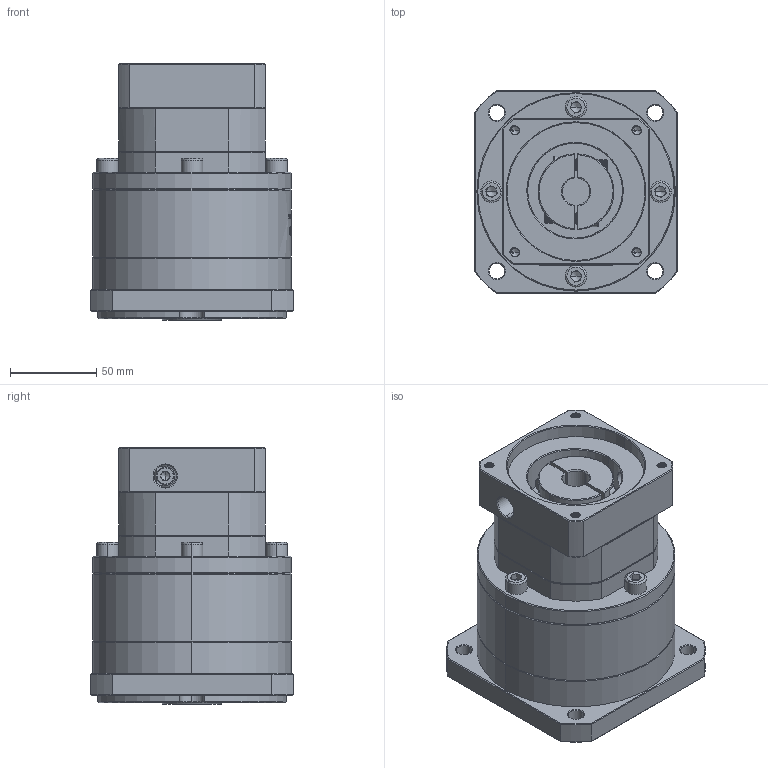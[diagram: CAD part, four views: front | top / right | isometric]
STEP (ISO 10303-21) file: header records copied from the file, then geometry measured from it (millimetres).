
FILE_DESCRIPTION (( 'STEP AP214' ), '1' );
FILE_NAME ('ZF120A-K25-L2-16-80-100-M6.step', '2023-03-07T15:03:38', ( '' ), ( 'Microsoft' ), 'SwSTEP 2.0', 'SolidWorks 2016', '' );
FILE_SCHEMA (( 'AUTOMOTIVE_DESIGN' ));
Length unit declared in the file: millimetre
Products named in the file (1): ZF120A-K25-L2-16-80-100-M6
Bounding box: 118 x 118 x 149 mm (x, y, z)
Volume: 1223533 mm3; surface area: 124837.9 mm2
Topology: 5 solids, 6 shells, 1880 faces, 4921 edges, 3133 vertices
Faces by surface type: plane 880, cylinder 369, bspline 312, cone 304, torus 15
Entity records: 99599 total; most frequent: CARTESIAN_POINT 36281, ORIENTED_EDGE 9786, DIRECTION 7575, EDGE_CURVE 4893, VERTEX_POINT 3133, VECTOR 2695, LINE 2695, AXIS2_PLACEMENT_3D 2440
